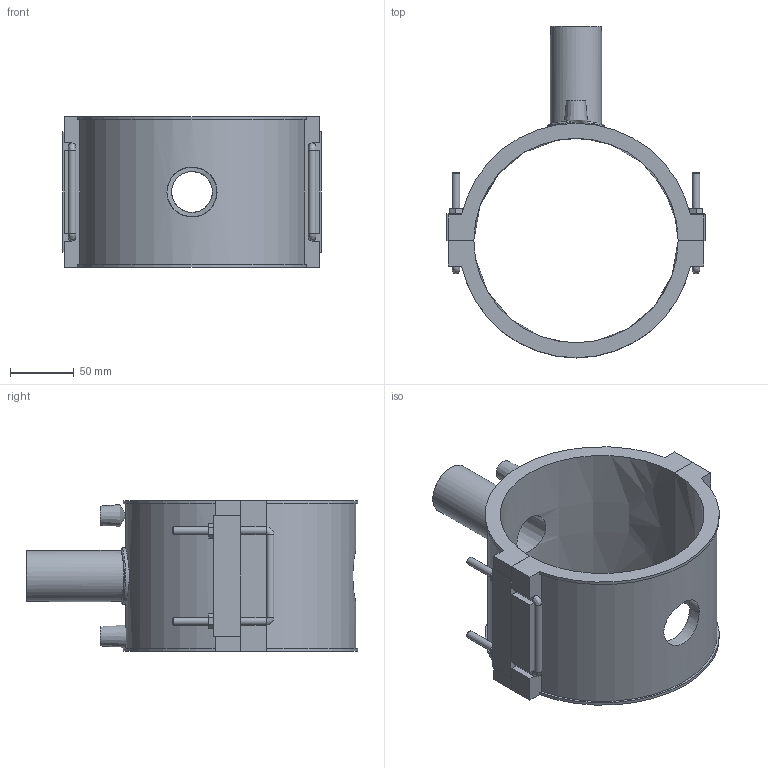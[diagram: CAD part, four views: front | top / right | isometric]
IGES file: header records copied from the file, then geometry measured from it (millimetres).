
Global section: file name: 495804160040.ipt; native system: Autodesk Inventor 2015; preprocessor: unknown; author: KIM; date: 20180426.120850; units: millimetre
Bounding box: 202 x 259.8 x 118 mm (x, y, z)
Volume: 771409.9 mm3; surface area: 183246.1 mm2
Topology: 2 solids, 2 shells, 133 faces, 340 edges, 214 vertices
Faces by surface type: plane 85, cylinder 22, revolution 10, bspline 9, cone 7
Full cylindrical faces by diameter (mm): 4 x2, 6 x10, 40 x1, 44 x1
